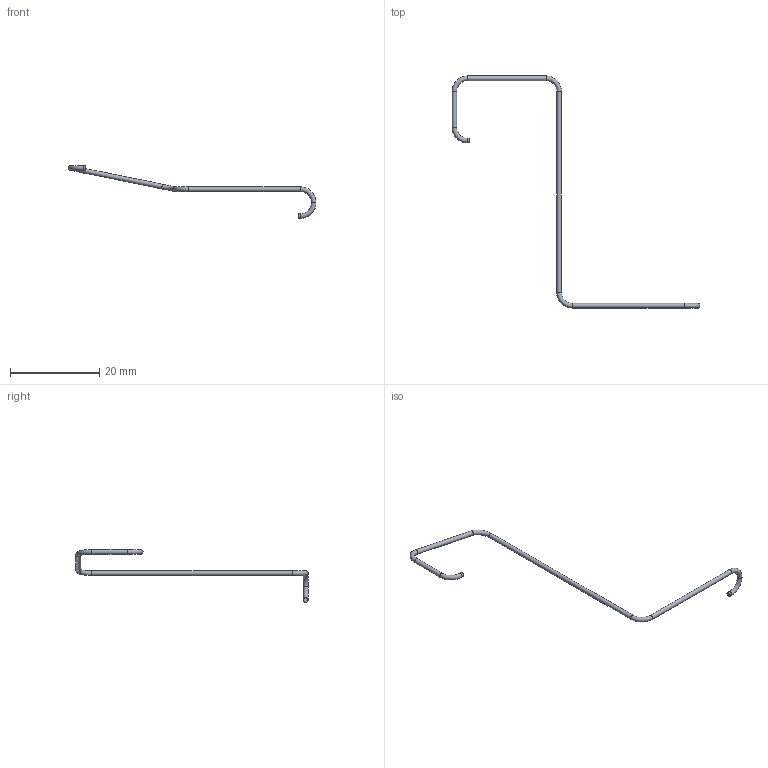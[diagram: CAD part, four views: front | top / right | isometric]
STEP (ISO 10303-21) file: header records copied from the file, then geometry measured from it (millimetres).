
FILE_DESCRIPTION(('Open CASCADE Model'),'2;1');
FILE_NAME('R36_J8_LED_PH_LEAD_2_OD1p05_R3','2026-09-15T14:14:49',( 'Author'),('Open CASCADE'),'Open CASCADE STEP processor 7.9', 'build123d','Unknown');
FILE_SCHEMA(('AUTOMOTIVE_DESIGN { 1 0 10303 214 1 1 1 1 }'));
Length unit declared in the file: millimetre
Products named in the file (1): R36_J8_LED_PH_LEAD_2_OD1p05_R3
Bounding box: 55.66 x 52.09 x 11.87 mm (x, y, z)
Volume: 108.6 mm3; surface area: 415.5 mm2
Topology: 1 solids, 1 shells, 15 faces, 27 edges, 14 vertices
Faces by surface type: cylinder 7, torus 6, plane 2
Full cylindrical faces by diameter (mm): 1.05 x7
Entity records: 701 total; most frequent: CARTESIAN_POINT 136, DIRECTION 108, ORIENTED_EDGE 54, PCURVE 54, DEFINITIONAL_REPRESENTATION 54, AXIS2_PLACEMENT_3D 36, LINE 34, VECTOR 34
